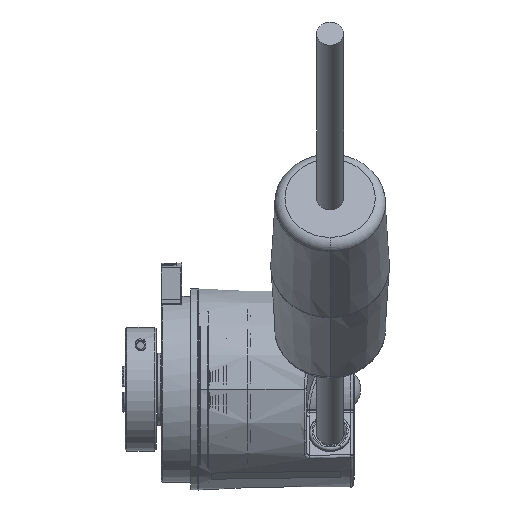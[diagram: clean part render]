
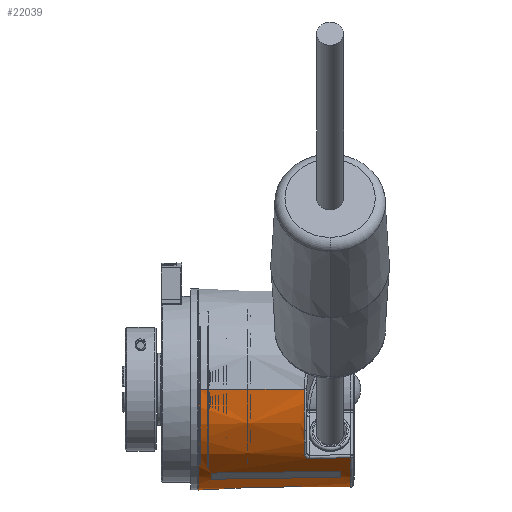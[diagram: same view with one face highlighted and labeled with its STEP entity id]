
A CAD part, front view. The second image highlights one B-rep face of the part: STEP entity #22039.
In plain terms, the highlighted conical face has half-angle 1 degrees and reference radius 18.976 mm.
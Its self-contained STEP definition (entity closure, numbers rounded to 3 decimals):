
#343 = ORIENTED_EDGE ( 'NONE', *, *, #31151, .T. ) ;
#412 = ORIENTED_EDGE ( 'NONE', *, *, #37269, .F. ) ;
#492 = ORIENTED_EDGE ( 'NONE', *, *, #31153, .F. ) ;
#591 = ORIENTED_EDGE ( 'NONE', *, *, #37271, .T. ) ;
#736 = ORIENTED_EDGE ( 'NONE', *, *, #31156, .F. ) ;
#752 = ORIENTED_EDGE ( 'NONE', *, *, #31155, .F. ) ;
#878 = ORIENTED_EDGE ( 'NONE', *, *, #31154, .T. ) ;
#950 = ORIENTED_EDGE ( 'NONE', *, *, #37176, .T. ) ;
#960 = ORIENTED_EDGE ( 'NONE', *, *, #31149, .T. ) ;
#1001 = ORIENTED_EDGE ( 'NONE', *, *, #31150, .F. ) ;
#1023 = ORIENTED_EDGE ( 'NONE', *, *, #31152, .T. ) ;
#2351 = AXIS2_PLACEMENT_3D ( 'NONE', #4440, #4441, #4435 ) ;
#3195 = FACE_OUTER_BOUND ( 'NONE', #42383, .T. ) ;
#3200 = FACE_BOUND ( 'NONE', #8199, .T. ) ;
#3204 = CONICAL_SURFACE ( 'NONE', #2351, 18.976, 0.017 ) ;
#4435 = DIRECTION ( 'NONE',  ( 0., -1., 0. ) ) ;
#4440 = CARTESIAN_POINT ( 'NONE',  ( 37.2, 0., 0. ) ) ;
#4441 = DIRECTION ( 'NONE',  ( -1., 0., 0. ) ) ;
#8199 = EDGE_LOOP ( 'NONE', ( #492, #878, #752, #736 ) ) ;
#10281 = AXIS2_PLACEMENT_3D ( 'NONE', #14782, #14783, #14785 ) ;
#10282 = AXIS2_PLACEMENT_3D ( 'NONE', #14789, #14791, #14793 ) ;
#10283 = AXIS2_PLACEMENT_3D ( 'NONE', #14801, #14802, #14803 ) ;
#10284 = AXIS2_PLACEMENT_3D ( 'NONE', #14810, #14812, #14814 ) ;
#11598 = CIRCLE ( 'NONE', #10281, 19.142 ) ;
#11600 = CIRCLE ( 'NONE', #10282, 19.5 ) ;
#11602 = CIRCLE ( 'NONE', #10283, 19.02 ) ;
#11604 = CIRCLE ( 'NONE', #10284, 19.456 ) ;
#14736 = CARTESIAN_POINT ( 'NONE',  ( 36.375, -13.589, -13.266 ) ) ;
#14747 = CARTESIAN_POINT ( 'NONE',  ( 36.042, -13.592, -13.271 ) ) ;
#14748 = CARTESIAN_POINT ( 'NONE',  ( 27.709, -14.307, -12.718 ) ) ;
#14754 = CARTESIAN_POINT ( 'NONE',  ( 36.709, -13.586, -13.261 ) ) ;
#14755 = CARTESIAN_POINT ( 'NONE',  ( 35.709, -13.595, -13.277 ) ) ;
#14757 = CARTESIAN_POINT ( 'NONE',  ( 34.376, -13.607, -13.298 ) ) ;
#14758 = CARTESIAN_POINT ( 'NONE',  ( 33.043, -13.619, -13.319 ) ) ;
#14760 = CARTESIAN_POINT ( 'NONE',  ( 31.71, -13.631, -13.34 ) ) ;
#14761 = CARTESIAN_POINT ( 'NONE',  ( 30.709, -13.64, -13.356 ) ) ;
#14763 = CARTESIAN_POINT ( 'NONE',  ( 29.709, -13.649, -13.371 ) ) ;
#14764 = CARTESIAN_POINT ( 'NONE',  ( 28.709, -13.658, -13.387 ) ) ;
#14767 = CARTESIAN_POINT ( 'NONE',  ( 27.709, -14.397, -12.615 ) ) ;
#14769 = CARTESIAN_POINT ( 'NONE',  ( 27.733, -14.216, -12.819 ) ) ;
#14771 = CARTESIAN_POINT ( 'NONE',  ( 27.827, -14.044, -13.005 ) ) ;
#14772 = CARTESIAN_POINT ( 'NONE',  ( 27.898, -13.961, -13.091 ) ) ;
#14773 = CARTESIAN_POINT ( 'NONE',  ( 28.079, -13.821, -13.235 ) ) ;
#14774 = CARTESIAN_POINT ( 'NONE',  ( 28.19, -13.762, -13.293 ) ) ;
#14776 = CARTESIAN_POINT ( 'NONE',  ( 28.437, -13.681, -13.37 ) ) ;
#14778 = CARTESIAN_POINT ( 'NONE',  ( 28.572, -13.659, -13.389 ) ) ;
#14779 = CARTESIAN_POINT ( 'NONE',  ( 28.709, -13.658, -13.387 ) ) ;
#14782 = CARTESIAN_POINT ( 'NONE',  ( 27.709, 0., 0. ) ) ;
#14783 = DIRECTION ( 'NONE',  ( -1., 0., 0. ) ) ;
#14785 = DIRECTION ( 'NONE',  ( 0., 1., 0. ) ) ;
#14786 = CARTESIAN_POINT ( 'NONE',  ( 26.367, -10.586, -15.976 ) ) ;
#14788 = CARTESIAN_POINT ( 'NONE',  ( 18.033, -10.663, -16.1 ) ) ;
#14789 = CARTESIAN_POINT ( 'NONE',  ( 7.2, 0., 0. ) ) ;
#14791 = DIRECTION ( 'NONE',  ( 1., 0., 0. ) ) ;
#14793 = DIRECTION ( 'NONE',  ( 0., 1., 0. ) ) ;
#14794 = CARTESIAN_POINT ( 'NONE',  ( 34.7, -10.51, -15.853 ) ) ;
#14796 = CARTESIAN_POINT ( 'NONE',  ( 9.7, -10.74, -16.224 ) ) ;
#14797 = CARTESIAN_POINT ( 'NONE',  ( 18.033, -8.611, -17.284 ) ) ;
#14799 = CARTESIAN_POINT ( 'NONE',  ( 26.367, -8.543, -17.156 ) ) ;
#14801 = CARTESIAN_POINT ( 'NONE',  ( 34.7, 0., 0. ) ) ;
#14802 = DIRECTION ( 'NONE',  ( 1., 0., 0. ) ) ;
#14803 = DIRECTION ( 'NONE',  ( 0., -1., 0. ) ) ;
#14805 = CARTESIAN_POINT ( 'NONE',  ( 9.7, -8.68, -17.413 ) ) ;
#14806 = CARTESIAN_POINT ( 'NONE',  ( 34.7, -8.474, -17.028 ) ) ;
#14807 = B_SPLINE_CURVE_WITH_KNOTS ( 'NONE', 3,
 ( #14794, #14786, #14788, #14796 ),
 .UNSPECIFIED., .F., .F.,
 ( 4, 4 ),
 ( 0., 0.025 ),
 .UNSPECIFIED. ) ;
#14810 = CARTESIAN_POINT ( 'NONE',  ( 9.7, 0., 0. ) ) ;
#14812 = DIRECTION ( 'NONE',  ( 1., 0., 0. ) ) ;
#14814 = DIRECTION ( 'NONE',  ( 0., -1., 0. ) ) ;
#15182 = B_SPLINE_CURVE_WITH_KNOTS ( 'NONE', 3,
 ( #14754, #14736, #14747, #14755, #14757, #14758, #14760, #14761, #14763, #14764 ),
 .UNSPECIFIED., .F., .F.,
 ( 4, 3, 3, 4 ),
 ( 0., 0.001, 0.005, 0.008 ),
 .UNSPECIFIED. ) ;
#15194 = B_SPLINE_CURVE_WITH_KNOTS ( 'NONE', 3,
 ( #14805, #14797, #14799, #14806 ),
 .UNSPECIFIED., .F., .F.,
 ( 4, 4 ),
 ( 0., 0.025 ),
 .UNSPECIFIED. ) ;
#15405 = B_SPLINE_CURVE_WITH_KNOTS ( 'NONE', 3,
 ( #14767, #14748, #14769, #14771, #14772, #14773, #14774, #14776, #14778, #14779 ),
 .UNSPECIFIED., .F., .F.,
 ( 4, 2, 2, 2, 4 ),
 ( 0., 0., 0.001, 0.001, 0.002 ),
 .UNSPECIFIED. ) ;
#19689 = CARTESIAN_POINT ( 'NONE',  ( 27.709, -14.397, -12.615 ) ) ;
#19728 = CARTESIAN_POINT ( 'NONE',  ( 36.709, -13.586, -13.261 ) ) ;
#19775 = CARTESIAN_POINT ( 'NONE',  ( 9.7, -8.68, -17.413 ) ) ;
#19846 = CARTESIAN_POINT ( 'NONE',  ( 34.7, -10.51, -15.853 ) ) ;
#19858 = CARTESIAN_POINT ( 'NONE',  ( 9.7, -10.74, -16.224 ) ) ;
#19956 = CARTESIAN_POINT ( 'NONE',  ( 7.2, -19.5, 0. ) ) ;
#22039 = ADVANCED_FACE ( 'NONE', ( #3195, #3200 ), #3204, .T. ) ;
#25211 = AXIS2_PLACEMENT_3D ( 'NONE', #29863, #29864, #29865 ) ;
#26186 = CIRCLE ( 'NONE', #25211, 18.985 ) ;
#26239 = LINE ( 'NONE', #30407, #26243 ) ;
#26243 = VECTOR ( 'NONE', #30402, 1000. ) ;
#26244 = LINE ( 'NONE', #30399, #26246 ) ;
#26246 = VECTOR ( 'NONE', #30406, 1000. ) ;
#28400 = CARTESIAN_POINT ( 'NONE',  ( 27.709, -19.142, 0. ) ) ;
#28591 = CARTESIAN_POINT ( 'NONE',  ( 28.709, -13.658, -13.387 ) ) ;
#28636 = CARTESIAN_POINT ( 'NONE',  ( 7.2, 19.5, 0. ) ) ;
#28694 = CARTESIAN_POINT ( 'NONE',  ( 36.709, 18.985, 0. ) ) ;
#28820 = CARTESIAN_POINT ( 'NONE',  ( 34.7, -8.474, -17.028 ) ) ;
#29863 = CARTESIAN_POINT ( 'NONE',  ( 36.709, 0., 0. ) ) ;
#29864 = DIRECTION ( 'NONE',  ( -1., 0., 0. ) ) ;
#29865 = DIRECTION ( 'NONE',  ( 0., 1., 0. ) ) ;
#30399 = CARTESIAN_POINT ( 'NONE',  ( 37.2, -18.976, 0. ) ) ;
#30402 = DIRECTION ( 'NONE',  ( -1., 0.017, 0. ) ) ;
#30406 = DIRECTION ( 'NONE',  ( -1., -0.017, 0. ) ) ;
#30407 = CARTESIAN_POINT ( 'NONE',  ( 37.2, 18.976, 0. ) ) ;
#31149 = EDGE_CURVE ( 'NONE', #32407, #36025, #15182, .T. ) ;
#31150 = EDGE_CURVE ( 'NONE', #32368, #36025, #15405, .T. ) ;
#31151 = EDGE_CURVE ( 'NONE', #32368, #35834, #11598, .T. ) ;
#31152 = EDGE_CURVE ( 'NONE', #32793, #36070, #11600, .T. ) ;
#31153 = EDGE_CURVE ( 'NONE', #32608, #32626, #14807, .T. ) ;
#31154 = EDGE_CURVE ( 'NONE', #32608, #36374, #11602, .T. ) ;
#31155 = EDGE_CURVE ( 'NONE', #32480, #36374, #15194, .T. ) ;
#31156 = EDGE_CURVE ( 'NONE', #32626, #32480, #11604, .T. ) ;
#32368 = VERTEX_POINT ( 'NONE', #19689 ) ;
#32407 = VERTEX_POINT ( 'NONE', #19728 ) ;
#32480 = VERTEX_POINT ( 'NONE', #19775 ) ;
#32608 = VERTEX_POINT ( 'NONE', #19846 ) ;
#32626 = VERTEX_POINT ( 'NONE', #19858 ) ;
#32793 = VERTEX_POINT ( 'NONE', #19956 ) ;
#35834 = VERTEX_POINT ( 'NONE', #28400 ) ;
#36025 = VERTEX_POINT ( 'NONE', #28591 ) ;
#36070 = VERTEX_POINT ( 'NONE', #28636 ) ;
#36135 = VERTEX_POINT ( 'NONE', #28694 ) ;
#36374 = VERTEX_POINT ( 'NONE', #28820 ) ;
#37176 = EDGE_CURVE ( 'NONE', #36135, #32407, #26186, .T. ) ;
#37269 = EDGE_CURVE ( 'NONE', #36135, #36070, #26239, .T. ) ;
#37271 = EDGE_CURVE ( 'NONE', #35834, #32793, #26244, .T. ) ;
#42383 = EDGE_LOOP ( 'NONE', ( #412, #950, #960, #1001, #343, #591, #1023 ) ) ;
